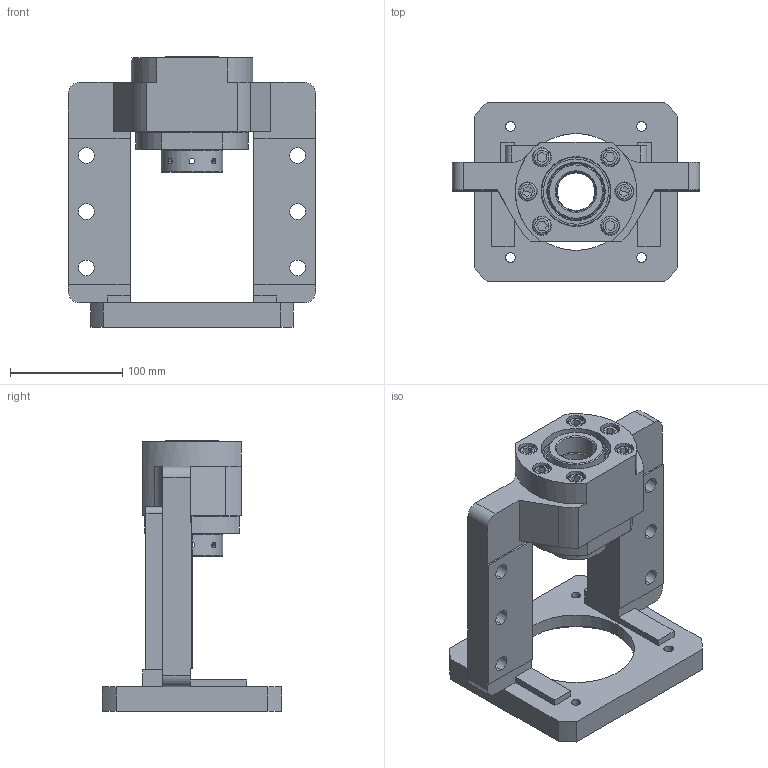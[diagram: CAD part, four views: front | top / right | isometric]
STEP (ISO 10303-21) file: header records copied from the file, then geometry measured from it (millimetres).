
FILE_DESCRIPTION (( 'STEP AP203' ), '1' );
FILE_NAME ('MBCK35L-I²Õ¦X¥ó.STEP', '2025-09-18T05:10:36', ( '' ), ( '' ), 'SwSTEP 2.0', 'SolidWorks 2018', '' );
FILE_SCHEMA (( 'CONFIG_CONTROL_DESIGN' ));
Length unit declared in the file: millimetre
Products named in the file (2): MBCK35L-I組合件
Bounding box: 220 x 160 x 241 mm (x, y, z)
Surface area: 235277 mm2 (no closed solid volume)
Topology: 0 solids, 34 shells, 344 faces, 957 edges, 637 vertices
Faces by surface type: plane 123, cylinder 122, cone 68, torus 20, bspline 11
Entity records: 27831 total; most frequent: CARTESIAN_POINT 18929, DIRECTION 1884, ORIENTED_EDGE 1663, EDGE_CURVE 945, AXIS2_PLACEMENT_3D 736, VERTEX_POINT 637, EDGE_LOOP 420, VECTOR 412
